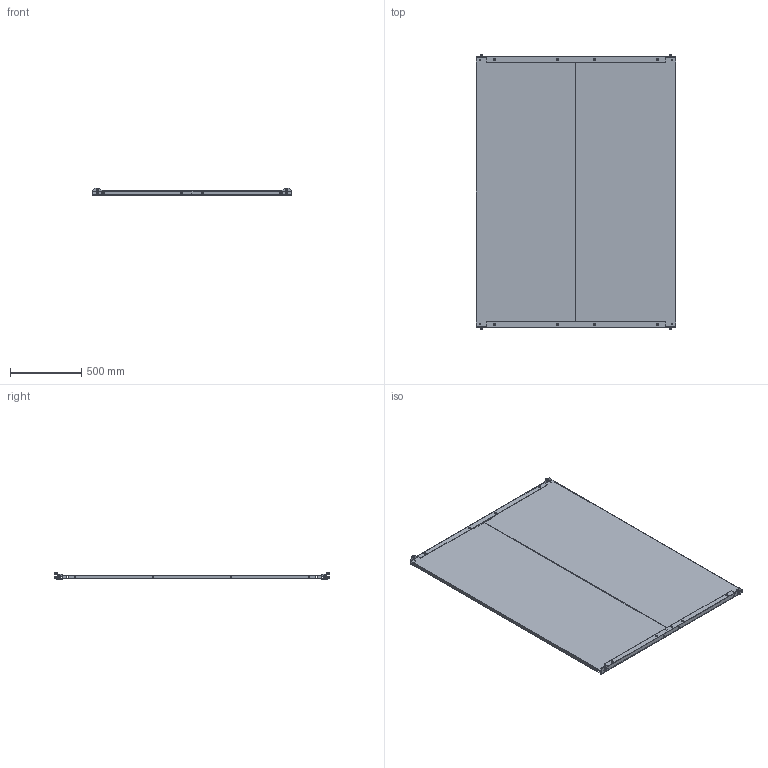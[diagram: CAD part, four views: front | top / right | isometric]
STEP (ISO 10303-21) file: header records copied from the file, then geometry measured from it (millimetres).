
FILE_DESCRIPTION(('Open CASCADE Model'),'2;1');
FILE_NAME('Open CASCADE Shape Model','2025-02-13T16:54:15',('Author'),( 'Open CASCADE'),'Open CASCADE STEP processor 7.8','Open CASCADE 7.8' ,'Unknown');
FILE_SCHEMA(('AUTOMOTIVE_DESIGN { 1 0 10303 214 1 1 1 1 }'));
Length unit declared in the file: millimetre
Products named in the file (14): Compound1; Compound2; Solid1; Solid2; Solid3; Solid4; Compound3; Solid5; Solid6; Solid7; Solid8; Solid9; Solid10; Solid11
Assembly tree (72 placements, depth 3):
  Compound1
    Compound2
      Solid1  x2
      Solid2  x2
      Solid3  x12
      Solid4  x12
    Compound3  x2
      Solid5
      Solid6
    Solid3  x4
    Solid7  x4
    Solid8  x8
    Solid9  x4
    Solid10  x8
    Solid11  x8
Bounding box: 1400 x 1926 x 55.3 mm (x, y, z)
Volume: 8301569.3 mm3; surface area: 6700060.9 mm2
Topology: 74 solids, 74 shells, 4332 faces, 11362 edges, 7154 vertices
Faces by surface type: plane 2088, cylinder 1212, cone 440, bspline 376, torus 200, sphere 16
Full cylindrical faces by diameter (mm): 5 x24, 6 x40, 6.5 x8, 6.8 x64, 8 x8, 8.3 x8, 8.4 x4, 9.5 x8, 10.1 x8, 10.44 x8, 10.5 x8, 11.57 x8, 12 x8, 12.65 x8, 16 x20, 16.55 x16
Entity records: 25786 total; most frequent: CARTESIAN_POINT 6836, ORIENTED_EDGE 3986, DIRECTION 3650, EDGE_CURVE 1993, VERTEX_POINT 1277, LINE 1276, VECTOR 1276, AXIS2_PLACEMENT_3D 1187
